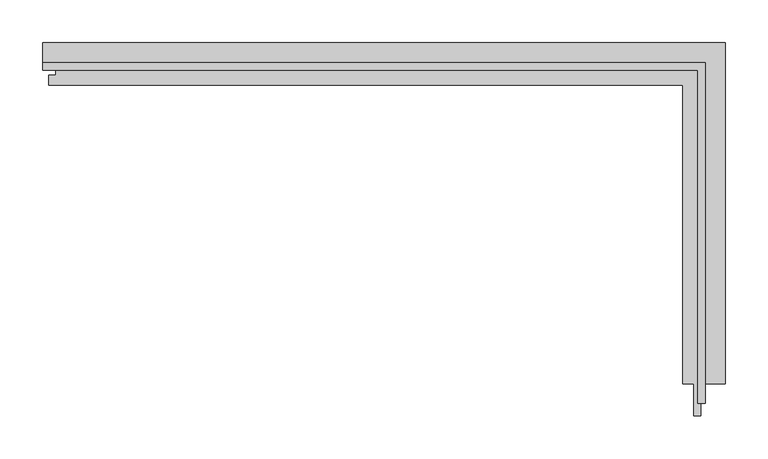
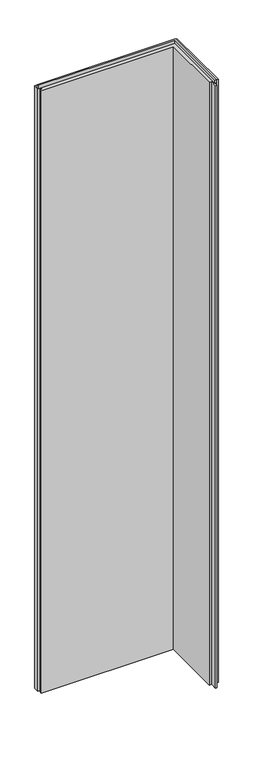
"""IFC4 building model written with IfcOpenShell, lengths in millimetres: plate geometry, Trimo_Qbiss Screen_L Corner Panel-VERTICAL : HR - B."""

from ifc_helpers import new_model, si_unit, frame, origin, place, context, project, spatial, polyline, outline, extrude, source, transform, mapped, element, save


def plate_d7a17129(model_context):
    return source(origin(), model_context, "Body", "SweptSolid", [
        extrude(outline(polyline([(-337.0, 93.9), (-337.0, 102.6), (439.6, 102.6), (439.6, -297.0), (430.9, -297.0), (430.9, 93.9), (-337.0, 93.9)])), frame((0.0, 0.0, 3590.5), z_axis=(0.0, 0.0, 1.0), x_axis=(1.0, 0.0, 0.0)), (0.0, 0.0, 1.0), 19.0),
        extrude(outline(polyline([(463.0, -274.0), (434.0, -274.0), (434.0, -311.5), (426.0, -311.5), (426.0, -274.0), (413.0, -274.0), (413.0, 76.0), (-330.0, 76.0), (-330.0, 88.0), (-321.5, 88.0), (-321.5, 98.0), (-337.0, 98.0), (-337.0, 126.0), (463.0, 126.0), (463.0, -274.0)])), frame((0.0, 0.0, 12.5), z_axis=(0.0, 0.0, 1.0), x_axis=(1.0, 0.0, 0.0)), (0.0, 0.0, 1.0), 3575.0),
        extrude(outline(polyline([(439.6, -296.0), (434.0, -296.0), (434.0, -275.0), (439.6, -275.0), (439.6, -296.0)])), frame((0.0, 0.0, 12.5), z_axis=(0.0, 0.0, 1.0), x_axis=(1.0, 0.0, 0.0)), (0.0, 0.0, 1.0), 3575.0),
    ])


if __name__ == "__main__":
    model = new_model("IFC4")
    model_context = context("Model", 3, world=origin())
    ifc_project = project(units=[si_unit("LENGTHUNIT", "METRE", prefix="MILLI")], contexts=[model_context])
    site = spatial("IfcSite", under=ifc_project)
    building = spatial("IfcBuilding", under=site)
    placement = place(None, origin())
    plate_shape = plate_d7a17129(model_context)
    element("IfcPlate", 1, ObjectType="Trimo_Qbiss Screen_L Corner Panel-VERTICAL : HR - B", at=placement, inside=building, context=model_context, shape_type="MappedRepresentation", body=[
        mapped(plate_shape, transform((0.0, 0.0, 0.0), x_axis=(1.0, 0.0, 0.0), y_axis=(0.0, 1.0, 0.0), z_axis=(0.0, 0.0, 1.0))),
    ])
    save(model, "model.ifc")
